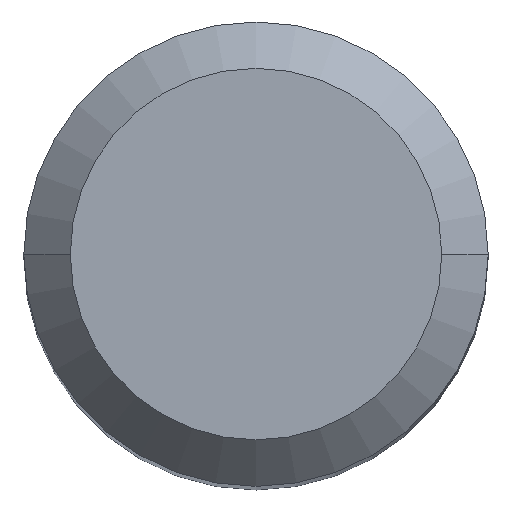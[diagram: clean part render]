
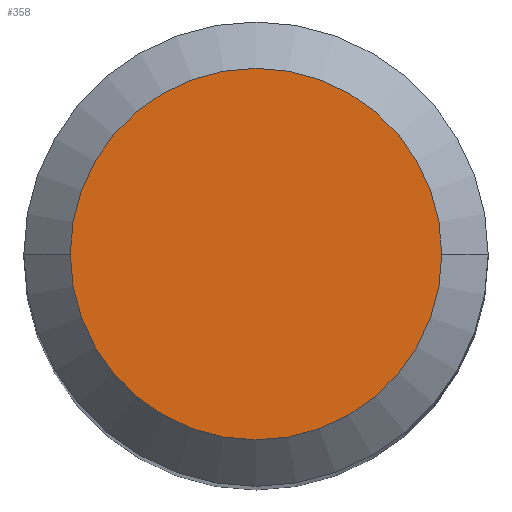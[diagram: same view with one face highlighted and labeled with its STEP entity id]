
A CAD part, top view. The second image highlights one B-rep face of the part: STEP entity #358.
In plain terms, the highlighted planar face has unit normal (0, 0, 1).
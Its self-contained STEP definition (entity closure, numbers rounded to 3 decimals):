
#21 = DIRECTION ( 'NONE',  ( 1., 0., 0. ) ) ;
#24 = CIRCLE ( 'NONE', #431, 3.2 ) ;
#61 = CARTESIAN_POINT ( 'NONE',  ( 0., 0., 0. ) ) ;
#62 = FACE_OUTER_BOUND ( 'NONE', #289, .T. ) ;
#107 = VERTEX_POINT ( 'NONE', #405 ) ;
#135 = CARTESIAN_POINT ( 'NONE',  ( 0., 0., 0. ) ) ;
#149 = DIRECTION ( 'NONE',  ( 0., 0., -1. ) ) ;
#179 = DIRECTION ( 'NONE',  ( 0., 0., -1. ) ) ;
#185 = VERTEX_POINT ( 'NONE', #399 ) ;
#216 = PLANE ( 'NONE',  #447 ) ;
#253 = ORIENTED_EDGE ( 'NONE', *, *, #484, .F. ) ;
#274 = AXIS2_PLACEMENT_3D ( 'NONE', #61, #149, #449 ) ;
#289 = EDGE_LOOP ( 'NONE', ( #253, #374 ) ) ;
#309 = EDGE_CURVE ( 'NONE', #185, #107, #336, .T. ) ;
#330 = DIRECTION ( 'NONE',  ( 0., 0., 1. ) ) ;
#336 = CIRCLE ( 'NONE', #274, 3.2 ) ;
#358 = ADVANCED_FACE ( 'NONE', ( #62 ), #216, .T. ) ;
#364 = DIRECTION ( 'NONE',  ( -1., 0., 0. ) ) ;
#371 = CARTESIAN_POINT ( 'NONE',  ( 0., 3.2, 0. ) ) ;
#374 = ORIENTED_EDGE ( 'NONE', *, *, #309, .F. ) ;
#399 = CARTESIAN_POINT ( 'NONE',  ( 3.2, 0., 0. ) ) ;
#405 = CARTESIAN_POINT ( 'NONE',  ( -3.2, 0., 0. ) ) ;
#431 = AXIS2_PLACEMENT_3D ( 'NONE', #135, #179, #364 ) ;
#447 = AXIS2_PLACEMENT_3D ( 'NONE', #371, #330, #21 ) ;
#449 = DIRECTION ( 'NONE',  ( -1., 0., 0. ) ) ;
#484 = EDGE_CURVE ( 'NONE', #107, #185, #24, .T. ) ;
